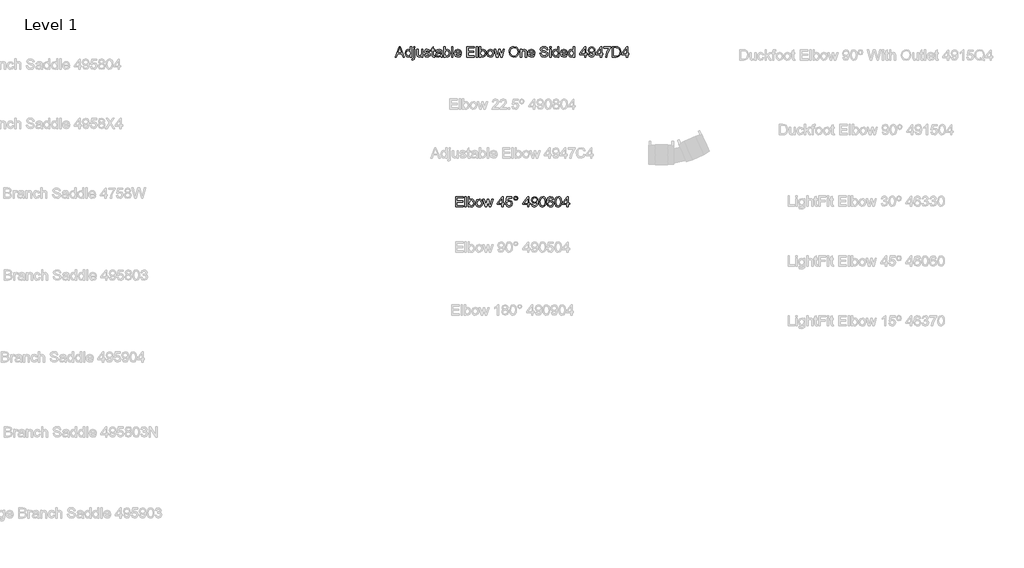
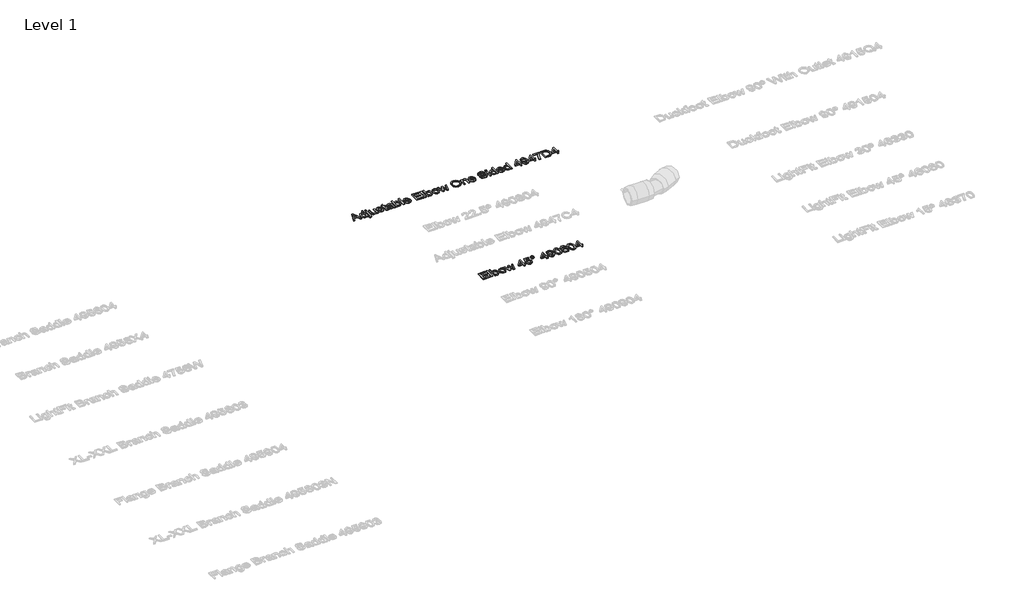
# One storey, part 15 of 38: 2 proxies.
"""IFC4 building model written with IfcOpenShell, lengths in millimetres."""

from ifc_helpers import new_model, si_unit, origin, origin_with_axes, place, context, project, spatial, polyline, outline, extrude, element, save

model = new_model("IFC4")

# Units and contexts
model_context = context("Model", 3, world=origin())
ifc_project = project(units=[si_unit("LENGTHUNIT", "METRE", prefix="MILLI")], contexts=[model_context])

# Site, building, storey
site = spatial("IfcSite", under=ifc_project)
building = spatial("IfcBuilding", under=site)
storey = spatial("IfcBuildingStorey", under=building, Name="Level 1", Elevation=0.0)

# Proxies
placement = place(None, origin())
element("IfcBuildingElementProxy", 1, Name="100 mm Arial", ObjectType="100 mm Arial", at=placement, inside=storey, context=model_context, shape_type="SweptSolid", body=[
    extrude(outline(polyline([(10985.4152968, 5008.1156584), (11008.9970276, 5067.1925814), (11015.2854891, 5067.1925814), (11038.8672199, 5008.1156584), (11031.0643353, 5008.1156584), (11024.2999122, 5026.5771968), (10999.9681814, 5026.5771968), (10993.2181814, 5008.1156584), (10985.4152968, 5008.1156584)]), holes=[polyline([(11002.6797199, 5033.9618122), (11021.6027968, 5033.9618122), (11016.2806814, 5048.4858507), (11012.1412583, 5059.8079661), (11008.4633737, 5049.7550814), (11002.6797199, 5033.9618122)])]), origin_with_axes(), (0.0, 0.0, 1.0), 5.0),
    extrude(outline(polyline([(11072.6027968, 5008.1156584), (11072.6027968, 5015.0820045), (11067.7169795, 5009.1649372), (11060.9633737, 5007.1925814), (11051.819143, 5010.0483507), (11045.3576045, 5018.0171007), (11043.0643353, 5029.7646968), (11045.177316, 5041.5195045), (11051.5090468, 5049.6108507), (11060.9345276, 5052.4233507), (11067.7422199, 5050.4113314), (11072.6027968, 5045.1829661), (11072.6027968, 5067.1925814), (11079.9874122, 5067.1925814), (11079.9874122, 5008.1156584), (11072.6027968, 5008.1156584)]), holes=[polyline([(11050.4489506, 5029.793543), (11053.7806814, 5018.3632545), (11061.6412583, 5014.5771968), (11069.4080853, 5018.1901776), (11072.6027968, 5029.231043), (11069.350393, 5041.2166199), (11061.3383737, 5045.0387353), (11053.5643353, 5041.3680622), (11050.4489506, 5029.793543)])]), origin_with_axes(), (0.0, 0.0, 1.0), 5.0),
    extrude(outline(polyline([(11091.0643353, 5059.8079661), (11091.0643353, 5067.1925814), (11098.4489506, 5067.1925814), (11098.4489506, 5059.8079661), (11091.0643353, 5059.8079661)])), origin_with_axes(), (0.0, 0.0, 1.0), 5.0),
    extrude(outline(polyline([(11081.7614506, 4991.4714276), (11083.319143, 4998.4954661), (11086.708566, 4997.9618122), (11089.989816, 4999.4257545), (11091.0643353, 5006.7454661), (11091.0643353, 5051.5002738), (11098.4489506, 5051.5002738), (11098.4489506, 5005.793543), (11096.3576045, 4994.6589276), (11087.5306814, 4990.5771968), (11081.7614506, 4991.4714276)])), origin_with_axes(), (0.0, 0.0, 1.0), 5.0),
    extrude(outline(polyline([(11137.2181814, 5008.1156584), (11137.2181814, 5015.5723891), (11131.4345276, 5009.2875334), (11123.8912583, 5007.1925814), (11116.9465468, 5008.6637353), (11112.1580853, 5012.356043), (11109.958566, 5017.793543), (11109.5258737, 5024.6589276), (11109.5258737, 5051.5002738), (11116.9104891, 5051.5002738), (11116.9104891, 5028.1348891), (11117.3576045, 5020.606043), (11120.2782776, 5016.1853699), (11125.7806814, 5014.5771968), (11131.9465468, 5016.2214276), (11136.021066, 5020.699793), (11137.2181814, 5028.9281584), (11137.2181814, 5051.5002738), (11144.6027968, 5051.5002738), (11144.6027968, 5008.1156584), (11137.2181814, 5008.1156584)])), origin_with_axes(), (0.0, 0.0, 1.0), 5.0),
    extrude(outline(polyline([(11151.9874122, 5021.0387353), (11159.3720276, 5021.9618122), (11162.7902968, 5016.481043), (11170.6220276, 5014.5771968), (11178.1508737, 5016.3223891), (11180.6027968, 5020.418543), (11178.1364506, 5023.7358507), (11170.5354891, 5025.8416199), (11159.4152968, 5029.4546007), (11154.5619314, 5033.6733507), (11152.9104891, 5039.6300814), (11154.2374122, 5045.1324853), (11157.8576045, 5049.3368122), (11162.552316, 5051.5219084), (11168.9056814, 5052.4233507), (11177.8912583, 5050.9738314), (11183.6027968, 5047.0507545), (11186.1412583, 5040.4233507), (11178.756643, 5039.5002738), (11175.9802006, 5043.574793), (11169.4826045, 5045.0387353), (11162.4152968, 5043.6396968), (11160.2951045, 5040.3800814), (11161.1749122, 5038.231043), (11163.9297199, 5036.6012353), (11170.2902968, 5035.0291199), (11181.1292391, 5031.5531584), (11186.162893, 5027.6156584), (11187.9874122, 5021.1973891), (11185.8455853, 5014.1300814), (11179.6652968, 5009.0026776), (11170.521066, 5007.1925814), (11157.6412583, 5010.6829661), (11151.9874122, 5021.0387353)])), origin_with_axes(), (0.0, 0.0, 1.0), 5.0),
    extrude(outline(polyline([(11211.9874122, 5014.2743122), (11212.9104891, 5007.8993122), (11207.3864506, 5007.1925814), (11201.1989506, 5008.418543), (11198.1124122, 5011.6348891), (11197.2181814, 5020.0146968), (11197.2181814, 5044.1156584), (11191.6797199, 5044.1156584), (11191.6797199, 5051.5002738), (11197.2181814, 5051.5002738), (11197.2181814, 5062.043543), (11204.6027968, 5066.3848891), (11204.6027968, 5051.5002738), (11211.9874122, 5051.5002738), (11211.9874122, 5044.1156584), (11204.6027968, 5044.1156584), (11204.6027968, 5020.231043), (11204.9922199, 5016.4233507), (11206.2542391, 5015.074793), (11208.771066, 5014.5771968), (11211.9874122, 5014.2743122)])), origin_with_axes(), (0.0, 0.0, 1.0), 5.0),
    extrude(outline(polyline([(11247.0643353, 5013.6541199), (11239.9032776, 5008.6493122), (11231.9922199, 5007.1925814), (11221.2686622, 5010.6973891), (11217.5258737, 5019.6541199), (11218.9393353, 5025.4954661), (11222.6532776, 5029.7358507), (11227.8239506, 5032.1589276), (11234.2133737, 5033.2695045), (11247.021066, 5035.8079661), (11247.0643353, 5037.4521968), (11245.0306814, 5042.9041199), (11236.8672199, 5045.0387353), (11229.396066, 5043.6180622), (11225.833566, 5038.5771968), (11218.4489506, 5039.5002738), (11221.6436622, 5046.7118122), (11228.0763545, 5050.9377738), (11237.819143, 5052.4233507), (11246.7686622, 5051.1108507), (11251.8239506, 5047.8151776), (11254.0883737, 5042.8031584), (11254.4489506, 5036.3416199), (11254.4489506, 5027.1541199), (11254.8239506, 5014.324793), (11256.2951045, 5008.1156584), (11248.9104891, 5008.1156584), (11247.0643353, 5013.6541199)]), holes=[polyline([(11247.0643353, 5028.4233507), (11235.1508737, 5026.1589276), (11228.7975083, 5024.9618122), (11225.9201045, 5023.0146968), (11224.9104891, 5020.1733507), (11227.1100083, 5016.1781584), (11233.5643353, 5014.5771968), (11241.0354891, 5016.3440238), (11245.8527968, 5020.6204661), (11247.021066, 5026.3320045), (11247.0643353, 5028.4233507)])]), origin_with_axes(), (0.0, 0.0, 1.0), 5.0),
    extrude(outline(polyline([(11271.9874122, 5008.1156584), (11264.6027968, 5008.1156584), (11264.6027968, 5067.1925814), (11271.9874122, 5067.1925814), (11271.9874122, 5045.2839276), (11277.1580853, 5050.6384949), (11283.583566, 5052.4233507), (11290.9826045, 5050.8151776), (11296.7229891, 5046.293543), (11300.2494314, 5039.262293), (11301.5258737, 5030.4570045), (11300.2043593, 5020.5988314), (11296.239816, 5013.2646968), (11290.4219074, 5008.7106103), (11283.5402968, 5007.1925814), (11276.974191, 5009.1505141), (11271.9874122, 5015.0243122), (11271.9874122, 5008.1156584)]), holes=[polyline([(11271.9874122, 5030.1108507), (11274.006643, 5019.7839276), (11282.9056814, 5014.5771968), (11290.8095276, 5018.4137353), (11294.1412583, 5029.8512353), (11290.9465468, 5041.3320045), (11283.2229891, 5045.0387353), (11275.319143, 5041.2021968), (11271.9874122, 5030.1108507)])]), origin_with_axes(), (0.0, 0.0, 1.0), 5.0),
    extrude(outline(polyline([(11309.833566, 5008.1156584), (11309.833566, 5067.1925814), (11317.2181814, 5067.1925814), (11317.2181814, 5008.1156584), (11309.833566, 5008.1156584)])), origin_with_axes(), (0.0, 0.0, 1.0), 5.0),
    extrude(outline(polyline([(11358.6701045, 5021.0387353), (11365.9104891, 5020.1156584), (11359.1388545, 5010.5820045), (11346.5258737, 5007.1925814), (11337.8612103, 5008.6547209), (11331.194143, 5013.0411391), (11326.942941, 5020.0669805), (11325.5258737, 5029.4473891), (11326.9573641, 5039.1433026), (11331.2518353, 5046.3945045), (11337.8287583, 5050.9161391), (11346.1076045, 5052.4233507), (11354.1286381, 5050.9197449), (11360.537893, 5046.4089276), (11364.740417, 5039.1721488), (11366.1412583, 5029.4906584), (11366.0979891, 5027.5002738), (11332.9104891, 5027.5002738), (11337.1580853, 5017.9089276), (11346.6701045, 5014.5771968), (11353.9104891, 5016.1204661), (11358.6701045, 5021.0387353)]), holes=[polyline([(11332.9104891, 5034.8848891), (11358.756643, 5034.8848891), (11355.7999122, 5041.5771968), (11346.0787583, 5045.0387353), (11336.9850083, 5042.2767161), (11332.9104891, 5034.8848891)])]), origin_with_axes(), (0.0, 0.0, 1.0), 5.0),
    extrude(outline(polyline([(11397.5258737, 5008.1156584), (11397.5258737, 5067.1925814), (11439.9874122, 5067.1925814), (11439.9874122, 5059.8079661), (11404.9104891, 5059.8079661), (11404.9104891, 5042.2695045), (11438.1412583, 5042.2695045), (11438.1412583, 5034.8848891), (11404.9104891, 5034.8848891), (11404.9104891, 5015.5002738), (11440.9104891, 5015.5002738), (11440.9104891, 5008.1156584), (11397.5258737, 5008.1156584)])), origin_with_axes(), (0.0, 0.0, 1.0), 5.0),
    extrude(outline(polyline([(11451.0643353, 5008.1156584), (11451.0643353, 5067.1925814), (11458.4489506, 5067.1925814), (11458.4489506, 5008.1156584), (11451.0643353, 5008.1156584)])), origin_with_axes(), (0.0, 0.0, 1.0), 5.0),
    extrude(outline(polyline([(11476.9104891, 5008.1156584), (11469.5258737, 5008.1156584), (11469.5258737, 5067.1925814), (11476.9104891, 5067.1925814), (11476.9104891, 5045.2839276), (11482.0811622, 5050.6384949), (11488.506643, 5052.4233507), (11495.9056814, 5050.8151776), (11501.646066, 5046.293543), (11505.1725083, 5039.262293), (11506.4489506, 5030.4570045), (11505.1274362, 5020.5988314), (11501.162893, 5013.2646968), (11495.3449843, 5008.7106103), (11488.4633737, 5007.1925814), (11481.897268, 5009.1505141), (11476.9104891, 5015.0243122), (11476.9104891, 5008.1156584)]), holes=[polyline([(11476.9104891, 5030.1108507), (11478.9297199, 5019.7839276), (11487.8287583, 5014.5771968), (11495.7326045, 5018.4137353), (11499.0643353, 5029.8512353), (11495.8696237, 5041.3320045), (11488.146066, 5045.0387353), (11480.2422199, 5041.2021968), (11476.9104891, 5030.1108507)])]), origin_with_axes(), (0.0, 0.0, 1.0), 5.0),
    extrude(outline(polyline([(11512.9104891, 5029.8079661), (11514.5078449, 5040.2683026), (11519.2999122, 5047.6204661), (11532.3095276, 5052.4233507), (11540.0673401, 5050.9612113), (11546.2638545, 5046.574793), (11550.3257535, 5039.6102497), (11551.6797199, 5030.4137353), (11549.2854891, 5017.2743122), (11542.3119314, 5009.8392161), (11532.3095276, 5007.1925814), (11524.4579651, 5008.6493122), (11518.2686622, 5013.0195045), (11514.2500324, 5020.1300814), (11512.9104891, 5029.8079661)]), holes=[polyline([(11520.2951045, 5029.8223891), (11523.7133737, 5018.3776776), (11532.3095276, 5014.5771968), (11540.8768353, 5018.3993122), (11544.2951045, 5030.0531584), (11540.8552006, 5041.2382545), (11532.3095276, 5045.0387353), (11523.7133737, 5041.2526776), (11520.2951045, 5029.8223891)])]), origin_with_axes(), (0.0, 0.0, 1.0), 5.0),
    extrude(outline(polyline([(11567.1845276, 5008.1156584), (11553.9874122, 5051.5002738), (11561.6604891, 5051.5002738), (11569.146066, 5026.1877738), (11571.381643, 5017.1445045), (11573.2133737, 5025.856043), (11579.1701045, 5051.5002738), (11587.9681814, 5051.5002738), (11593.896066, 5025.9281584), (11595.5258737, 5018.0387353), (11597.8624122, 5026.3608507), (11605.3624122, 5051.5002738), (11613.0643353, 5051.5002738), (11599.7662583, 5008.1156584), (11590.8383737, 5008.1156584), (11585.1701045, 5033.5579661), (11583.5258737, 5041.4906584), (11576.2133737, 5008.1156584), (11567.1845276, 5008.1156584)])), origin_with_axes(), (0.0, 0.0, 1.0), 5.0),
    extrude(outline(polyline([(11639.3720276, 5036.8752738), (11641.3407776, 5049.9389757), (11647.2470276, 5059.8223891), (11656.2650564, 5066.0423411), (11667.569143, 5068.1156584), (11682.2662583, 5064.2214276), (11692.2470276, 5053.3608507), (11695.6797199, 5037.5531584), (11692.0667391, 5021.5291199), (11681.8263545, 5010.8271968), (11667.5258737, 5007.1925814), (11652.6701045, 5011.2094084), (11642.7470276, 5022.1709468), (11639.3720276, 5036.8752738)]), holes=[polyline([(11646.756643, 5036.8031584), (11648.2332055, 5027.5615718), (11652.662893, 5020.5195045), (11659.3209458, 5016.0627738), (11667.4826045, 5014.5771968), (11675.7632535, 5016.0771968), (11682.4321237, 5020.5771968), (11686.8293593, 5027.8356103), (11688.2951045, 5037.6108507), (11685.7854891, 5049.7983507), (11678.4513545, 5057.8680622), (11667.6124122, 5060.731043), (11652.9152968, 5055.2142161), (11648.2963064, 5047.8530382), (11646.756643, 5036.8031584)])]), origin_with_axes(), (0.0, 0.0, 1.0), 5.0),
    extrude(outline(polyline([(11704.9104891, 5008.1156584), (11704.9104891, 5051.5002738), (11712.2951045, 5051.5002738), (11712.2951045, 5045.4425814), (11717.9417391, 5050.6781584), (11725.6508737, 5052.4233507), (11732.6244314, 5051.0171007), (11737.3840468, 5047.324793), (11739.5979891, 5041.8945045), (11739.9874122, 5034.7550814), (11739.9874122, 5008.1156584), (11732.6027968, 5008.1156584), (11732.6027968, 5033.7598891), (11731.7518353, 5040.293543), (11728.7446237, 5043.7478699), (11723.6749122, 5045.0387353), (11715.662893, 5042.1396968), (11712.2951045, 5031.1348891), (11712.2951045, 5008.1156584), (11704.9104891, 5008.1156584)])), origin_with_axes(), (0.0, 0.0, 1.0), 5.0),
    extrude(outline(polyline([(11780.5162583, 5021.0387353), (11787.756643, 5020.1156584), (11780.9850083, 5010.5820045), (11768.3720276, 5007.1925814), (11759.7073641, 5008.6547209), (11753.0402968, 5013.0411391), (11748.7890949, 5020.0669805), (11747.3720276, 5029.4473891), (11748.803518, 5039.1433026), (11753.0979891, 5046.3945045), (11759.6749122, 5050.9161391), (11767.9537583, 5052.4233507), (11775.974792, 5050.9197449), (11782.3840468, 5046.4089276), (11786.5865708, 5039.1721488), (11787.9874122, 5029.4906584), (11787.944143, 5027.5002738), (11754.756643, 5027.5002738), (11759.0042391, 5017.9089276), (11768.5162583, 5014.5771968), (11775.756643, 5016.1204661), (11780.5162583, 5021.0387353)]), holes=[polyline([(11754.756643, 5034.8848891), (11780.6027968, 5034.8848891), (11777.646066, 5041.5771968), (11767.9249122, 5045.0387353), (11758.8311622, 5042.2767161), (11754.756643, 5034.8848891)])]), origin_with_axes(), (0.0, 0.0, 1.0), 5.0),
    extrude(outline(polyline([(11816.6027968, 5028.4233507), (11823.9874122, 5028.4233507), (11826.3672199, 5021.0315238), (11832.1797199, 5016.3584468), (11841.0354891, 5014.5771968), (11848.7518353, 5015.9257545), (11853.7350083, 5019.6324853), (11855.3720276, 5024.5868122), (11854.146066, 5029.1949853), (11849.1268353, 5032.5483507), (11838.3744314, 5035.3680622), (11826.7999122, 5039.0098891), (11820.5186622, 5044.5050814), (11818.4489506, 5051.8464276), (11821.0090468, 5060.2046007), (11828.4874122, 5066.1036391), (11839.4345276, 5068.1156584), (11851.1172199, 5066.0098891), (11858.9056814, 5059.8223891), (11861.833566, 5050.5771968), (11854.4489506, 5050.5771968), (11850.2662583, 5058.1637353), (11839.7229891, 5060.731043), (11829.1508737, 5058.1925814), (11825.833566, 5052.0627738), (11828.1845276, 5046.9425814), (11840.2422199, 5042.8175814), (11853.3095276, 5039.1108507), (11860.4561622, 5033.1252738), (11862.756643, 5024.7743122), (11860.1100083, 5015.9401776), (11852.4946237, 5009.4930622), (11841.3239506, 5007.1925814), (11828.1340468, 5009.6733507), (11819.7902968, 5017.1445045), (11816.6027968, 5028.4233507)])), origin_with_axes(), (0.0, 0.0, 1.0), 5.0),
    extrude(outline(polyline([(11872.9104891, 5008.1156584), (11872.9104891, 5051.5002738), (11880.2951045, 5051.5002738), (11880.2951045, 5008.1156584), (11872.9104891, 5008.1156584)])), origin_with_axes(), (0.0, 0.0, 1.0), 5.0),
    extrude(outline(polyline([(11872.9104891, 5059.8079661), (11872.9104891, 5067.1925814), (11880.2951045, 5067.1925814), (11880.2951045, 5059.8079661), (11872.9104891, 5059.8079661)])), origin_with_axes(), (0.0, 0.0, 1.0), 5.0),
    extrude(outline(polyline([(11918.1412583, 5008.1156584), (11918.1412583, 5015.0820045), (11913.255441, 5009.1649372), (11906.5018353, 5007.1925814), (11897.3576045, 5010.0483507), (11890.896066, 5018.0171007), (11888.6027968, 5029.7646968), (11890.7157776, 5041.5195045), (11897.0475083, 5049.6108507), (11906.4729891, 5052.4233507), (11913.2806814, 5050.4113314), (11918.1412583, 5045.1829661), (11918.1412583, 5067.1925814), (11925.5258737, 5067.1925814), (11925.5258737, 5008.1156584), (11918.1412583, 5008.1156584)]), holes=[polyline([(11895.9874122, 5029.793543), (11899.319143, 5018.3632545), (11907.1797199, 5014.5771968), (11914.9465468, 5018.1901776), (11918.1412583, 5029.231043), (11914.8888545, 5041.2166199), (11906.8768353, 5045.0387353), (11899.1027968, 5041.3680622), (11895.9874122, 5029.793543)])]), origin_with_axes(), (0.0, 0.0, 1.0), 5.0),
    extrude(outline(polyline([(11966.9777968, 5021.0387353), (11974.2181814, 5020.1156584), (11967.4465468, 5010.5820045), (11954.833566, 5007.1925814), (11946.1689026, 5008.6547209), (11939.5018353, 5013.0411391), (11935.2506333, 5020.0669805), (11933.833566, 5029.4473891), (11935.2650564, 5039.1433026), (11939.5595276, 5046.3945045), (11946.1364506, 5050.9161391), (11954.4152968, 5052.4233507), (11962.4363305, 5050.9197449), (11968.8455853, 5046.4089276), (11973.0481093, 5039.1721488), (11974.4489506, 5029.4906584), (11974.4056814, 5027.5002738), (11941.2181814, 5027.5002738), (11945.4657776, 5017.9089276), (11954.9777968, 5014.5771968), (11962.2181814, 5016.1204661), (11966.9777968, 5021.0387353)]), holes=[polyline([(11941.2181814, 5034.8848891), (11967.0643353, 5034.8848891), (11964.1076045, 5041.5771968), (11954.3864506, 5045.0387353), (11945.2927006, 5042.2767161), (11941.2181814, 5034.8848891)])]), origin_with_axes(), (0.0, 0.0, 1.0), 5.0),
    extrude(outline(polyline([(12008.6027968, 5008.1156584), (12008.6027968, 5015.0820045), (12003.7169795, 5009.1649372), (11996.9633737, 5007.1925814), (11987.819143, 5010.0483507), (11981.3576045, 5018.0171007), (11979.0643353, 5029.7646968), (11981.177316, 5041.5195045), (11987.5090468, 5049.6108507), (11996.9345276, 5052.4233507), (12003.7422199, 5050.4113314), (12008.6027968, 5045.1829661), (12008.6027968, 5067.1925814), (12015.9874122, 5067.1925814), (12015.9874122, 5008.1156584), (12008.6027968, 5008.1156584)]), holes=[polyline([(11986.4489506, 5029.793543), (11989.7806814, 5018.3632545), (11997.6412583, 5014.5771968), (12005.4080853, 5018.1901776), (12008.6027968, 5029.231043), (12005.350393, 5041.2166199), (11997.3383737, 5045.0387353), (11989.5643353, 5041.3680622), (11986.4489506, 5029.793543)])]), origin_with_axes(), (0.0, 0.0, 1.0), 5.0),
    extrude(outline(polyline([(12072.2951045, 5008.1156584), (12072.2951045, 5021.9618122), (12045.5258737, 5021.9618122), (12045.5258737, 5029.3464276), (12074.1412583, 5066.2695045), (12079.6797199, 5066.2695045), (12079.6797199, 5029.3464276), (12087.0643353, 5029.3464276), (12087.0643353, 5021.9618122), (12079.6797199, 5021.9618122), (12079.6797199, 5008.1156584), (12072.2951045, 5008.1156584)]), holes=[polyline([(12072.2951045, 5029.3464276), (12072.2951045, 5052.1637353), (12054.6124122, 5029.3464276), (12072.2951045, 5029.3464276)])]), origin_with_axes(), (0.0, 0.0, 1.0), 5.0),
    extrude(outline(polyline([(12094.4489506, 5022.8848891), (12101.833566, 5023.8079661), (12105.1508737, 5016.762293), (12111.4393353, 5014.5771968), (12117.4177006, 5015.9834468), (12121.4705853, 5019.7406584), (12123.8864506, 5026.1589276), (12124.9537583, 5034.7262353), (12119.0042391, 5030.5723891), (12110.9056814, 5028.4233507), (12098.5667391, 5033.6733507), (12093.5258737, 5047.5050814), (12098.8119314, 5061.7839276), (12112.0595276, 5067.1925814), (12122.5811622, 5064.106043), (12129.8215468, 5055.3079661), (12132.2951045, 5038.7791199), (12129.8287583, 5020.8440238), (12122.4946237, 5010.6829661), (12111.0931814, 5007.1925814), (12099.7422199, 5011.3103699), (12094.4489506, 5022.8848891)]), holes=[polyline([(12124.9104891, 5047.6781584), (12121.7229891, 5056.5339276), (12113.256643, 5059.8079661), (12104.3720276, 5056.2815238), (12100.9104891, 5047.1445045), (12104.1845276, 5038.9594084), (12113.0547199, 5035.8079661), (12121.5715468, 5038.9594084), (12124.9104891, 5047.6781584)])]), origin_with_axes(), (0.0, 0.0, 1.0), 5.0),
    extrude(outline(polyline([(12162.756643, 5008.1156584), (12162.756643, 5021.9618122), (12135.9874122, 5021.9618122), (12135.9874122, 5029.3464276), (12164.6027968, 5066.2695045), (12170.1412583, 5066.2695045), (12170.1412583, 5029.3464276), (12177.5258737, 5029.3464276), (12177.5258737, 5021.9618122), (12170.1412583, 5021.9618122), (12170.1412583, 5008.1156584), (12162.756643, 5008.1156584)]), holes=[polyline([(12162.756643, 5029.3464276), (12162.756643, 5052.1637353), (12145.0739506, 5029.3464276), (12162.756643, 5029.3464276)])]), origin_with_axes(), (0.0, 0.0, 1.0), 5.0),
    extrude(outline(polyline([(12183.9874122, 5058.8848891), (12183.9874122, 5066.2695045), (12222.756643, 5066.2695045), (12222.756643, 5060.2983507), (12211.7590468, 5044.4113314), (12203.3431814, 5024.168543), (12200.6027968, 5008.1156584), (12193.2181814, 5008.1156584), (12196.1532776, 5024.7743122), (12204.208566, 5043.6036391), (12215.3720276, 5058.8848891), (12183.9874122, 5058.8848891)])), origin_with_axes(), (0.0, 0.0, 1.0), 5.0),
    extrude(outline(polyline([(12231.9874122, 5008.1156584), (12231.9874122, 5067.1925814), (12252.3672199, 5067.1925814), (12262.9104891, 5066.3416199), (12271.5931814, 5062.1156584), (12278.5883737, 5052.0195045), (12280.9104891, 5037.9714276), (12279.3383737, 5026.0507545), (12275.2999122, 5017.4473891), (12269.9056814, 5012.0892161), (12262.8455853, 5009.1252738), (12253.3479891, 5008.1156584), (12231.9874122, 5008.1156584)]), holes=[polyline([(12239.3720276, 5015.5002738), (12252.4393353, 5015.5002738), (12261.944143, 5016.5675814), (12267.4249122, 5019.5820045), (12271.9177006, 5026.9161391), (12273.5258737, 5038.0868122), (12270.3744314, 5052.0771968), (12262.708566, 5058.6252738), (12252.2374122, 5059.8079661), (12239.3720276, 5059.8079661), (12239.3720276, 5015.5002738)])]), origin_with_axes(), (0.0, 0.0, 1.0), 5.0),
    extrude(outline(polyline([(12312.2951045, 5008.1156584), (12312.2951045, 5021.9618122), (12285.5258737, 5021.9618122), (12285.5258737, 5029.3464276), (12314.1412583, 5066.2695045), (12319.6797199, 5066.2695045), (12319.6797199, 5029.3464276), (12327.0643353, 5029.3464276), (12327.0643353, 5021.9618122), (12319.6797199, 5021.9618122), (12319.6797199, 5008.1156584), (12312.2951045, 5008.1156584)]), holes=[polyline([(12312.2951045, 5029.3464276), (12312.2951045, 5052.1637353), (12294.6124122, 5029.3464276), (12312.2951045, 5029.3464276)])]), origin_with_axes(), (0.0, 0.0, 1.0), 5.0),
])
element("IfcBuildingElementProxy", 2, Name="100 mm Arial", ObjectType="100 mm Arial", at=placement, inside=storey, context=model_context, shape_type="SweptSolid", body=[
    extrude(outline(polyline([(11332.9104891, 4148.1156584), (11332.9104891, 4207.1925814), (11375.3720276, 4207.1925814), (11375.3720276, 4199.8079661), (11340.2951045, 4199.8079661), (11340.2951045, 4182.2695045), (11373.5258737, 4182.2695045), (11373.5258737, 4174.8848891), (11340.2951045, 4174.8848891), (11340.2951045, 4155.5002738), (11376.2951045, 4155.5002738), (11376.2951045, 4148.1156584), (11332.9104891, 4148.1156584)])), origin_with_axes(), (0.0, 0.0, 1.0), 5.0),
    extrude(outline(polyline([(11386.4489506, 4148.1156584), (11386.4489506, 4207.1925814), (11393.833566, 4207.1925814), (11393.833566, 4148.1156584), (11386.4489506, 4148.1156584)])), origin_with_axes(), (0.0, 0.0, 1.0), 5.0),
    extrude(outline(polyline([(11412.2951045, 4148.1156584), (11404.9104891, 4148.1156584), (11404.9104891, 4207.1925814), (11412.2951045, 4207.1925814), (11412.2951045, 4185.2839276), (11417.4657776, 4190.6384949), (11423.8912583, 4192.4233507), (11431.2902968, 4190.8151776), (11437.0306814, 4186.293543), (11440.5571237, 4179.262293), (11441.833566, 4170.4570045), (11440.5120516, 4160.5988314), (11436.5475083, 4153.2646968), (11430.7295997, 4148.7106103), (11423.8479891, 4147.1925814), (11417.2818833, 4149.1505141), (11412.2951045, 4155.0243122), (11412.2951045, 4148.1156584)]), holes=[polyline([(11412.2951045, 4170.1108507), (11414.3143353, 4159.7839276), (11423.2133737, 4154.5771968), (11431.1172199, 4158.4137353), (11434.4489506, 4169.8512353), (11431.2542391, 4181.3320045), (11423.5306814, 4185.0387353), (11415.6268353, 4181.2021968), (11412.2951045, 4170.1108507)])]), origin_with_axes(), (0.0, 0.0, 1.0), 5.0),
    extrude(outline(polyline([(11448.2951045, 4169.8079661), (11449.8924603, 4180.2683026), (11454.6845276, 4187.6204661), (11467.694143, 4192.4233507), (11475.4519555, 4190.9612113), (11481.6484699, 4186.574793), (11485.7103689, 4179.6102497), (11487.0643353, 4170.4137353), (11484.6701045, 4157.2743122), (11477.6965468, 4149.8392161), (11467.694143, 4147.1925814), (11459.8425805, 4148.6493122), (11453.6532776, 4153.0195045), (11449.6346478, 4160.1300814), (11448.2951045, 4169.8079661)]), holes=[polyline([(11455.6797199, 4169.8223891), (11459.0979891, 4158.3776776), (11467.694143, 4154.5771968), (11476.2614506, 4158.3993122), (11479.6797199, 4170.0531584), (11476.239816, 4181.2382545), (11467.694143, 4185.0387353), (11459.0979891, 4181.2526776), (11455.6797199, 4169.8223891)])]), origin_with_axes(), (0.0, 0.0, 1.0), 5.0),
    extrude(outline(polyline([(11502.569143, 4148.1156584), (11489.3720276, 4191.5002738), (11497.0451045, 4191.5002738), (11504.5306814, 4166.1877738), (11506.7662583, 4157.1445045), (11508.5979891, 4165.856043), (11514.5547199, 4191.5002738), (11523.3527968, 4191.5002738), (11529.2806814, 4165.9281584), (11530.9104891, 4158.0387353), (11533.2470276, 4166.3608507), (11540.7470276, 4191.5002738), (11548.4489506, 4191.5002738), (11535.1508737, 4148.1156584), (11526.2229891, 4148.1156584), (11520.5547199, 4173.5579661), (11518.9104891, 4181.4906584), (11511.5979891, 4148.1156584), (11502.569143, 4148.1156584)])), origin_with_axes(), (0.0, 0.0, 1.0), 5.0),
    extrude(outline(polyline([(11598.756643, 4148.1156584), (11598.756643, 4161.9618122), (11571.9874122, 4161.9618122), (11571.9874122, 4169.3464276), (11600.6027968, 4206.2695045), (11606.1412583, 4206.2695045), (11606.1412583, 4169.3464276), (11613.5258737, 4169.3464276), (11613.5258737, 4161.9618122), (11606.1412583, 4161.9618122), (11606.1412583, 4148.1156584), (11598.756643, 4148.1156584)]), holes=[polyline([(11598.756643, 4169.3464276), (11598.756643, 4192.1637353), (11581.0739506, 4169.3464276), (11598.756643, 4169.3464276)])]), origin_with_axes(), (0.0, 0.0, 1.0), 5.0),
    extrude(outline(polyline([(11619.9874122, 4163.8079661), (11627.3720276, 4164.731043), (11631.0931814, 4157.1228699), (11638.8095276, 4154.5771968), (11648.069143, 4158.1180622), (11651.3720276, 4167.5146968), (11648.2782776, 4176.2839276), (11638.9249122, 4179.5002738), (11632.4417391, 4178.2166199), (11628.2951045, 4174.8848891), (11620.9104891, 4175.8079661), (11627.3720276, 4206.2695045), (11655.9874122, 4206.2695045), (11655.9874122, 4198.8848891), (11633.3431814, 4198.8848891), (11630.1845276, 4182.6156584), (11640.9874122, 4186.8848891), (11653.614816, 4181.5916199), (11658.756643, 4167.9762353), (11654.1268353, 4154.2743122), (11647.4777968, 4148.9630141), (11638.7806814, 4147.1925814), (11625.7494314, 4151.7430622), (11619.9874122, 4163.8079661)])), origin_with_axes(), (0.0, 0.0, 1.0), 5.0),
    extrude(outline(polyline([(11667.0643353, 4197.0531584), (11670.3167391, 4204.8848891), (11678.1268353, 4208.1156584), (11685.9874122, 4204.8848891), (11689.2181814, 4197.0531584), (11685.9657776, 4189.2142161), (11678.1268353, 4185.9618122), (11670.3167391, 4189.1925814), (11667.0643353, 4197.0531584)]), holes=[polyline([(11671.6797199, 4197.0387353), (11673.5763545, 4192.4666199), (11678.1556814, 4190.5771968), (11682.7061622, 4192.4666199), (11684.6027968, 4197.0387353), (11682.7061622, 4201.6108507), (11678.1556814, 4203.5002738), (11673.5763545, 4201.6108507), (11671.6797199, 4197.0387353)])]), origin_with_axes(), (0.0, 0.0, 1.0), 5.0),
    extrude(outline(polyline([(11745.5258737, 4148.1156584), (11745.5258737, 4161.9618122), (11718.756643, 4161.9618122), (11718.756643, 4169.3464276), (11747.3720276, 4206.2695045), (11752.9104891, 4206.2695045), (11752.9104891, 4169.3464276), (11760.2951045, 4169.3464276), (11760.2951045, 4161.9618122), (11752.9104891, 4161.9618122), (11752.9104891, 4148.1156584), (11745.5258737, 4148.1156584)]), holes=[polyline([(11745.5258737, 4169.3464276), (11745.5258737, 4192.1637353), (11727.8431814, 4169.3464276), (11745.5258737, 4169.3464276)])]), origin_with_axes(), (0.0, 0.0, 1.0), 5.0),
    extrude(outline(polyline([(11767.6797199, 4162.8848891), (11775.0643353, 4163.8079661), (11778.381643, 4156.762293), (11784.6701045, 4154.5771968), (11790.6484699, 4155.9834468), (11794.7013545, 4159.7406584), (11797.1172199, 4166.1589276), (11798.1845276, 4174.7262353), (11792.2350083, 4170.5723891), (11784.1364506, 4168.4233507), (11771.7975083, 4173.6733507), (11766.756643, 4187.5050814), (11772.0427006, 4201.7839276), (11785.2902968, 4207.1925814), (11795.8119314, 4204.106043), (11803.052316, 4195.3079661), (11805.5258737, 4178.7791199), (11803.0595276, 4160.8440238), (11795.725393, 4150.6829661), (11784.3239506, 4147.1925814), (11772.9729891, 4151.3103699), (11767.6797199, 4162.8848891)]), holes=[polyline([(11798.1412583, 4187.6781584), (11794.9537583, 4196.5339276), (11786.4874122, 4199.8079661), (11777.6027968, 4196.2815238), (11774.1412583, 4187.1445045), (11777.4152968, 4178.9594084), (11786.2854891, 4175.8079661), (11794.802316, 4178.9594084), (11798.1412583, 4187.6781584)])]), origin_with_axes(), (0.0, 0.0, 1.0), 5.0),
    extrude(outline(polyline([(11811.9874122, 4177.1781584), (11814.1580853, 4194.1757545), (11820.6052006, 4203.9762353), (11831.3720276, 4207.1925814), (11839.9970276, 4205.2887353), (11845.9537583, 4199.8007545), (11849.4152968, 4191.0603699), (11850.756643, 4177.1781584), (11848.6076045, 4160.2526776), (11842.1821237, 4150.4305622), (11831.3720276, 4147.1925814), (11823.6989506, 4148.5988314), (11817.8720276, 4152.8175814), (11813.458566, 4162.809168), (11811.9874122, 4177.1781584)]), holes=[polyline([(11819.3720276, 4177.1925814), (11822.833566, 4158.8536391), (11831.3720276, 4154.5771968), (11839.9104891, 4158.8680622), (11843.3720276, 4177.1925814), (11840.0258737, 4195.3223891), (11831.2854891, 4199.8079661), (11822.9489506, 4195.856043), (11819.3720276, 4177.1925814)])]), origin_with_axes(), (0.0, 0.0, 1.0), 5.0),
    extrude(outline(polyline([(11895.0643353, 4191.5002738), (11887.6797199, 4190.5771968), (11884.881643, 4196.7358507), (11877.4826045, 4199.8079661), (11870.819143, 4198.0195045), (11865.7782776, 4191.3055622), (11863.6797199, 4178.1445045), (11870.1917391, 4184.0363314), (11878.2614506, 4185.9618122), (11890.8095276, 4180.6973891), (11895.9874122, 4167.0964276), (11893.5499122, 4156.9065238), (11886.8431814, 4149.6949853), (11877.1652968, 4147.1925814), (11868.787292, 4148.8512353), (11862.114816, 4153.8271968), (11857.7500324, 4162.6108507), (11856.2951045, 4175.6925814), (11857.9104891, 4190.4005141), (11862.756643, 4200.4570045), (11869.3732295, 4205.5086872), (11877.944143, 4207.1925814), (11889.6124122, 4203.0243122), (11895.0643353, 4191.5002738)]), holes=[polyline([(11863.6797199, 4167.2118122), (11865.3888545, 4160.8151776), (11869.9321237, 4156.1709468), (11876.5883737, 4154.5771968), (11885.2927006, 4157.8800814), (11888.6027968, 4166.8512353), (11885.3359699, 4175.4401776), (11876.2854891, 4178.5771968), (11867.350393, 4175.4401776), (11863.6797199, 4167.2118122)])]), origin_with_axes(), (0.0, 0.0, 1.0), 5.0),
    extrude(outline(polyline([(11902.4489506, 4177.1781584), (11904.6196237, 4194.1757545), (11911.0667391, 4203.9762353), (11921.833566, 4207.1925814), (11930.458566, 4205.2887353), (11936.4152968, 4199.8007545), (11939.8768353, 4191.0603699), (11941.2181814, 4177.1781584), (11939.069143, 4160.2526776), (11932.6436622, 4150.4305622), (11921.833566, 4147.1925814), (11914.1604891, 4148.5988314), (11908.333566, 4152.8175814), (11903.9201045, 4162.809168), (11902.4489506, 4177.1781584)]), holes=[polyline([(11909.833566, 4177.1925814), (11913.2951045, 4158.8536391), (11921.833566, 4154.5771968), (11930.3720276, 4158.8680622), (11933.833566, 4177.1925814), (11930.4874122, 4195.3223891), (11921.7470276, 4199.8079661), (11913.4104891, 4195.856043), (11909.833566, 4177.1925814)])]), origin_with_axes(), (0.0, 0.0, 1.0), 5.0),
    extrude(outline(polyline([(11971.6797199, 4148.1156584), (11971.6797199, 4161.9618122), (11944.9104891, 4161.9618122), (11944.9104891, 4169.3464276), (11973.5258737, 4206.2695045), (11979.0643353, 4206.2695045), (11979.0643353, 4169.3464276), (11986.4489506, 4169.3464276), (11986.4489506, 4161.9618122), (11979.0643353, 4161.9618122), (11979.0643353, 4148.1156584), (11971.6797199, 4148.1156584)]), holes=[polyline([(11971.6797199, 4169.3464276), (11971.6797199, 4192.1637353), (11953.9970276, 4169.3464276), (11971.6797199, 4169.3464276)])]), origin_with_axes(), (0.0, 0.0, 1.0), 5.0),
])

save(model, "model.ifc")
